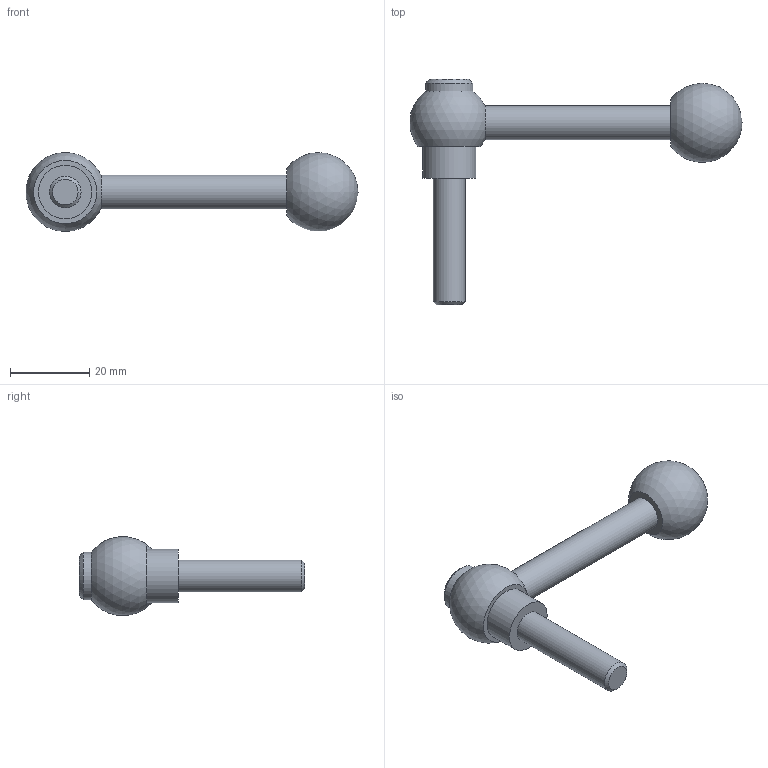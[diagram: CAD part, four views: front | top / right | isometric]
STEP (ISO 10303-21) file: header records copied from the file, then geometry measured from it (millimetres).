
FILE_DESCRIPTION( ( 'STEP AP203' ), '1' );
FILE_NAME( 'C:/Temp/Ganter_Step_05_03_2020/data/2_1/gn_6337_3/gn_6337_3_ms/gn_6337_3_ms_m/Adjustable clamping lever with bolt GN 6337.3-20-M8-32-M.stp', '2020-03-05T11:41:13', ( 'License CC BY-ND 4.0' ), ( 'CADENAS' ), ' ', 'PARTsolutions', ' ' );
FILE_SCHEMA( ( 'CONFIG_CONTROL_DESIGN' ) );
Length unit declared in the file: millimetre
Products named in the file (1): _Adjustable clamping lever with bolt GN 6337.3-20-M8-32-M
Bounding box: 83.92 x 57 x 19.98 mm (x, y, z)
Volume: 13412.3 mm3; surface area: 4796.4 mm2
Topology: 1 solids, 1 shells, 13 faces, 23 edges, 15 vertices
Faces by surface type: plane 5, cylinder 4, cone 2, sphere 2
Full cylindrical faces by diameter (mm): 8 x1, 8.5 x1, 12 x1, 13.5 x1
Entity records: 302 total; most frequent: DIRECTION 52, CARTESIAN_POINT 39, AXIS2_PLACEMENT_3D 26, EDGE_LOOP 24, ORIENTED_EDGE 24, FACE_OUTER_BOUND 18, ADVANCED_FACE 13, VERTEX_POINT 13
